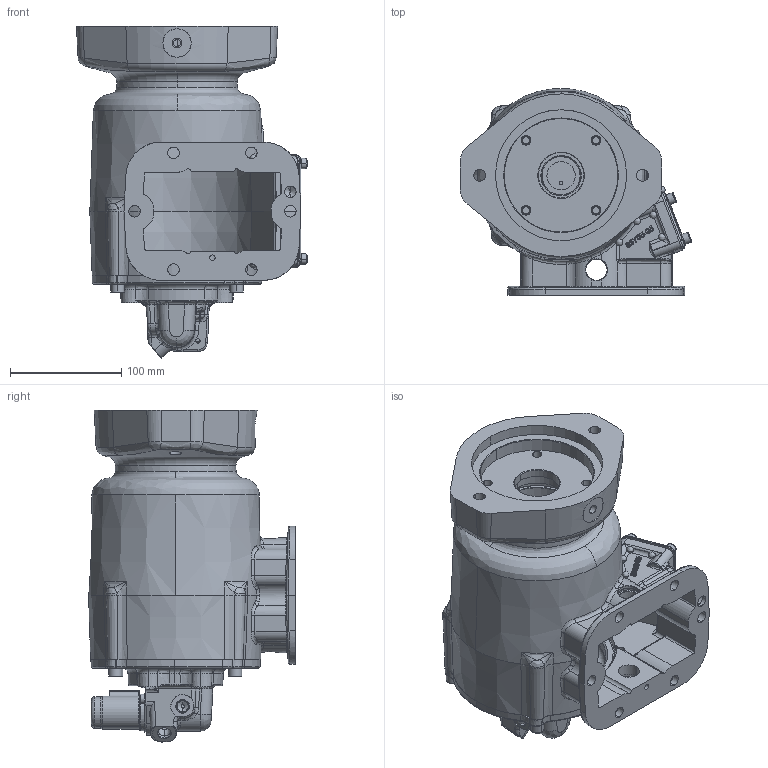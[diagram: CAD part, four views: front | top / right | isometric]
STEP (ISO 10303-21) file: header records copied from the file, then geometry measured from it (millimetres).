
FILE_DESCRIPTION (( 'STEP AP203' ), '1' );
FILE_NAME ('CS6S-XXXXX-S3LX.STEP', '2023-05-30T20:12:36', ( '' ), ( '' ), 'SwSTEP 2.0', 'SolidWorks 2021', '' );
FILE_SCHEMA (( 'CONFIG_CONTROL_DESIGN' ));
Length unit declared in the file: inch
Products named in the file (9): 19T35237; 14T40714; 19T40859; 35T40860-2; 19T41118; 15T41597; 01T37072; CS6S-XXXXX-S3LX; 16T41119
Assembly tree (15 placements, depth 2):
  CS6S-XXXXX-S3LX
    01T37072
    16T41119
    19T35237  x4
    19T41118  x4
    15T41597
    35T40860-2
    19T40859  x2
    14T40714
Bounding box: 207.37 x 185.25 x 297.84 mm (x, y, z)
Volume: 1670770.4 mm3; surface area: 412323.6 mm2
Topology: 16 solids, 16 shells, 2116 faces, 5402 edges, 3319 vertices
Faces by surface type: bspline 782, cylinder 521, plane 488, cone 226, torus 95, sphere 4
Entity records: 142594 total; most frequent: CARTESIAN_POINT 100342, ORIENTED_EDGE 9886, DIRECTION 6299, EDGE_CURVE 4943, VERTEX_POINT 3104, AXIS2_PLACEMENT_3D 2286, EDGE_LOOP 2161, B_SPLINE_CURVE_WITH_KNOTS 2034
